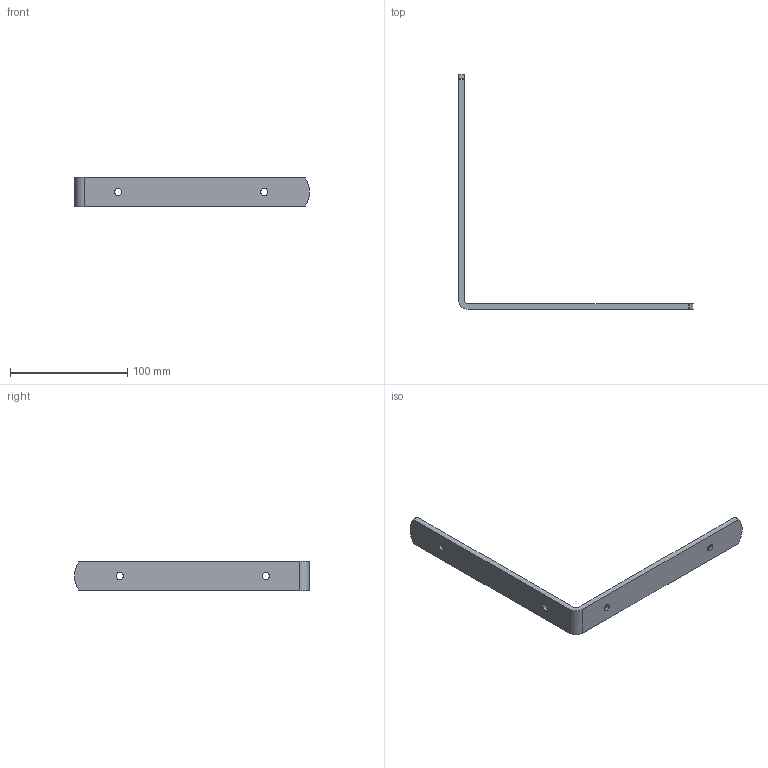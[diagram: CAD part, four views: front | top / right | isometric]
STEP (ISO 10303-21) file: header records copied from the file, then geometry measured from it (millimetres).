
FILE_DESCRIPTION(/* description */ (''),/* implementation_level */ '2;1');
FILE_NAME(/* name */ '\\NAS\db20\S-AGS200-200\DR_S-AGS200-200.stp',/* time_stamp */ '2017-10-12T15:55:29+09:00',/* author */ ('user'),/* organization */ (''),/* preprocessor_version */ 'ST-DEVELOPER v15.6',/* originating_system */ 'Autodesk Inventor 2015',/* authorisation */ '');
FILE_SCHEMA (('AUTOMOTIVE_DESIGN { 1 0 10303 214 3 1 1 }'));
Length unit declared in the file: millimetre
Products named in the file (1): DR_S-AGS200-200
Bounding box: 199.92 x 199.92 x 25 mm (x, y, z)
Volume: 46058.5 mm3; surface area: 23529.4 mm2
Topology: 1 solids, 1 shells, 22 faces, 60 edges, 40 vertices
Faces by surface type: cylinder 12, plane 6, cone 4
Full cylindrical faces by diameter (mm): 6 x4
Entity records: 676 total; most frequent: DIRECTION 122, CARTESIAN_POINT 107, ORIENTED_EDGE 96, AXIS2_PLACEMENT_3D 51, EDGE_CURVE 48, EDGE_LOOP 38, VERTEX_POINT 36, CIRCLE 28
